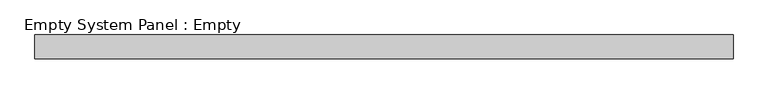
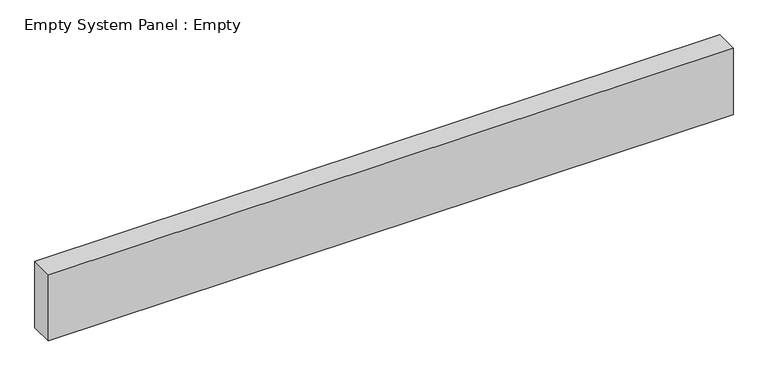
"""IFC4 building model written with IfcOpenShell, lengths in millimetres: plate geometry, Empty System Panel : Empty."""

from ifc_helpers import new_model, si_unit, origin, origin_with_axes, place, context, project, spatial, polyline, outline, extrude, source, transform, mapped, element, save


def empty_system_panel_empty_080f249c(model_context):
    return source(origin(), model_context, "Body", "SweptSolid", [
        extrude(outline(polyline([(1462.5, -50.0), (-1462.5, -50.0), (-1462.5, 50.0), (1462.5, 50.0), (1462.5, -50.0)])), origin_with_axes(), (0.0, 0.0, 1.0), 300.0),
    ])


if __name__ == "__main__":
    model = new_model("IFC4")
    model_context = context("Model", 3, world=origin())
    ifc_project = project(units=[si_unit("LENGTHUNIT", "METRE", prefix="MILLI")], contexts=[model_context])
    site = spatial("IfcSite", under=ifc_project)
    building = spatial("IfcBuilding", under=site)
    placement = place(None, origin())
    empty_system_panel_empty_shape = empty_system_panel_empty_080f249c(model_context)
    element("IfcPlate", 1, ObjectType="Empty System Panel : Empty", at=placement, inside=building, context=model_context, shape_type="MappedRepresentation", body=[
        mapped(empty_system_panel_empty_shape, transform((0.0, 0.0, 0.0), x_axis=(1.0, 0.0, 0.0), y_axis=(0.0, 1.0, 0.0), z_axis=(0.0, 0.0, 1.0))),
    ])
    save(model, "model.ifc")
